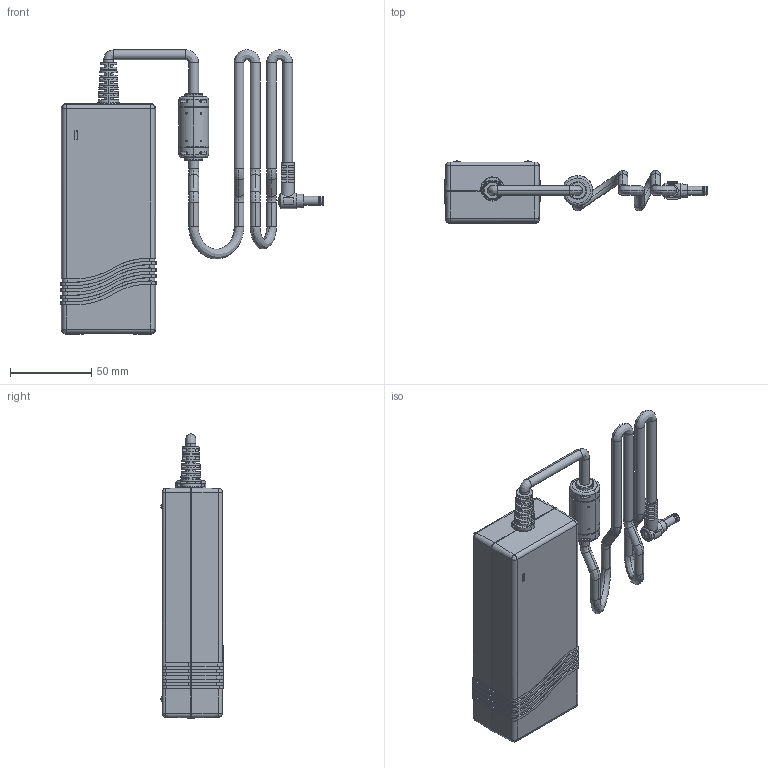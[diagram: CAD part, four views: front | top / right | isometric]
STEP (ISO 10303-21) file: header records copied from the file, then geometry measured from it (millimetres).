
FILE_DESCRIPTION (( 'STEP AP214' ), '1' );
FILE_NAME ('AEJ100.STEP', '2020-01-22T17:15:55', ( '' ), ( '' ), 'SwSTEP 2.0', 'SolidWorks 2017', '' );
FILE_SCHEMA (( 'AUTOMOTIVE_DESIGN' ));
Length unit declared in the file: millimetre
Products named in the file (11): AEJ100_LED; AEJ100_INPUT; AEJ100_CABLE_ASSY; AEJ100_CASE_TOP; AEJ100; AEJ100_CASE_BASE
Assembly tree (5 placements, depth 2):
  AEJ100_LED
  AEJ100_INPUT
  AEJ100_CASE_TOP
  AEJ100
    AEJ100_CASE_BASE
    AEJ100_CASE_TOP
    AEJ100_INPUT
    AEJ100_CABLE_ASSY
    AEJ100_LED
  AEJ100_CASE_BASE
Bounding box: 161.9 x 38.5 x 175.1 mm (x, y, z)
Volume: 94393.5 mm3; surface area: 90691.7 mm2
Topology: 9 solids, 9 shells, 1058 faces, 2735 edges, 1743 vertices
Faces by surface type: plane 620, cylinder 329, bspline 75, cone 34
Entity records: 37889 total; most frequent: CARTESIAN_POINT 12541, ORIENTED_EDGE 5394, DIRECTION 4848, EDGE_CURVE 2697, VERTEX_POINT 1743, LINE 1724, VECTOR 1724, AXIS2_PLACEMENT_3D 1562
